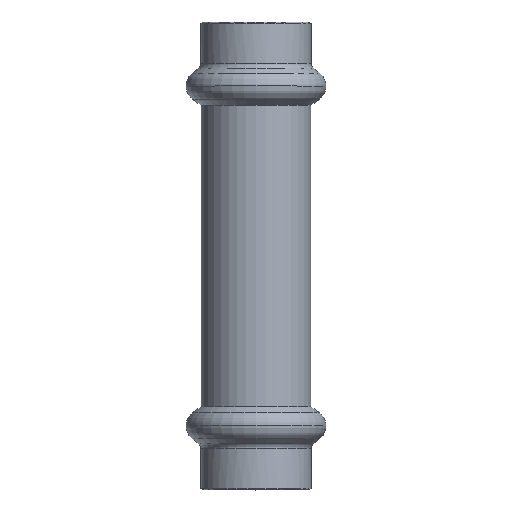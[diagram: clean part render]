
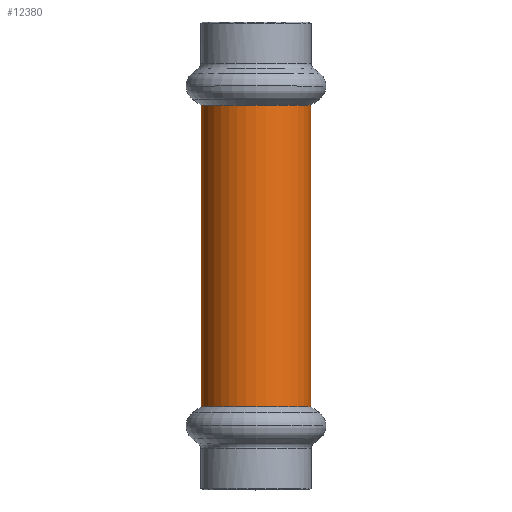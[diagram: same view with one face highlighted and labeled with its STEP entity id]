
A CAD part, top view. The second image highlights one B-rep face of the part: STEP entity #12380.
In plain terms, the highlighted cylindrical face has radius 8.925 mm (diameter 17.85 mm), a partial arc.
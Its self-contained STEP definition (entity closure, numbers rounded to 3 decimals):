
#10=CARTESIAN_POINT('',(30.496,22.037,0.));
#20=DIRECTION('',(0.,1.,0.));
#30=DIRECTION('',(1.,0.,0.));
#40=AXIS2_PLACEMENT_3D('',#10,#20,#30);
#50=CYLINDRICAL_SURFACE('',#40,8.925);
#60=CARTESIAN_POINT('',(39.421,22.037,0.));
#70=DIRECTION('',(0.,1.,0.));
#80=VECTOR('',#70,1.);
#90=LINE('',#60,#80);
#100=CARTESIAN_POINT('',(39.421,0.045,0.));
#110=VERTEX_POINT('',#100);
#120=CARTESIAN_POINT('',(39.421,49.03,0.));
#130=VERTEX_POINT('',#120);
#140=EDGE_CURVE('',#110,#130,#90,.T.);
#160=CARTESIAN_POINT('',(30.496,49.03,0.));
#170=DIRECTION('',(0.,-1.,0.));
#180=DIRECTION('',(-1.,0.,0.));
#190=AXIS2_PLACEMENT_3D('',#160,#170,#180);
#200=CIRCLE('',#190,8.925);
#210=CARTESIAN_POINT('',(21.571,49.03,
0.));
#220=VERTEX_POINT('',#210);
#250=CARTESIAN_POINT('',(21.571,22.037,
0.));
#260=DIRECTION('',(0.,1.,0.));
#270=VECTOR('',#260,1.);
#280=LINE('',#250,#270);
#290=CARTESIAN_POINT('',(21.571,0.045,
0.));
#300=VERTEX_POINT('',#290);
#310=EDGE_CURVE('',#300,#220,#280,.T.);
#330=CARTESIAN_POINT('',(30.496,0.045,0.));
#340=DIRECTION('',(0.,1.,0.));
#350=DIRECTION('',(1.,0.,0.));
#360=AXIS2_PLACEMENT_3D('',#330,#340,#350);
#370=CIRCLE('',#360,8.925);
#560=EDGE_CURVE('',#130,#220,#200,.T.);
#6070=EDGE_CURVE('',#300,#110,#370,.T.);
#12320=ORIENTED_EDGE('',*,*,#6070,.T.);
#12330=ORIENTED_EDGE('',*,*,#310,.F.);
#12340=ORIENTED_EDGE('',*,*,#560,.T.);
#12350=ORIENTED_EDGE('',*,*,#140,.T.);
#12360=EDGE_LOOP('',(#12350,#12340,#12330,#12320));
#12370=FACE_OUTER_BOUND('',#12360,.T.);
#12380=ADVANCED_FACE('',(#12370),#50,.T.);
